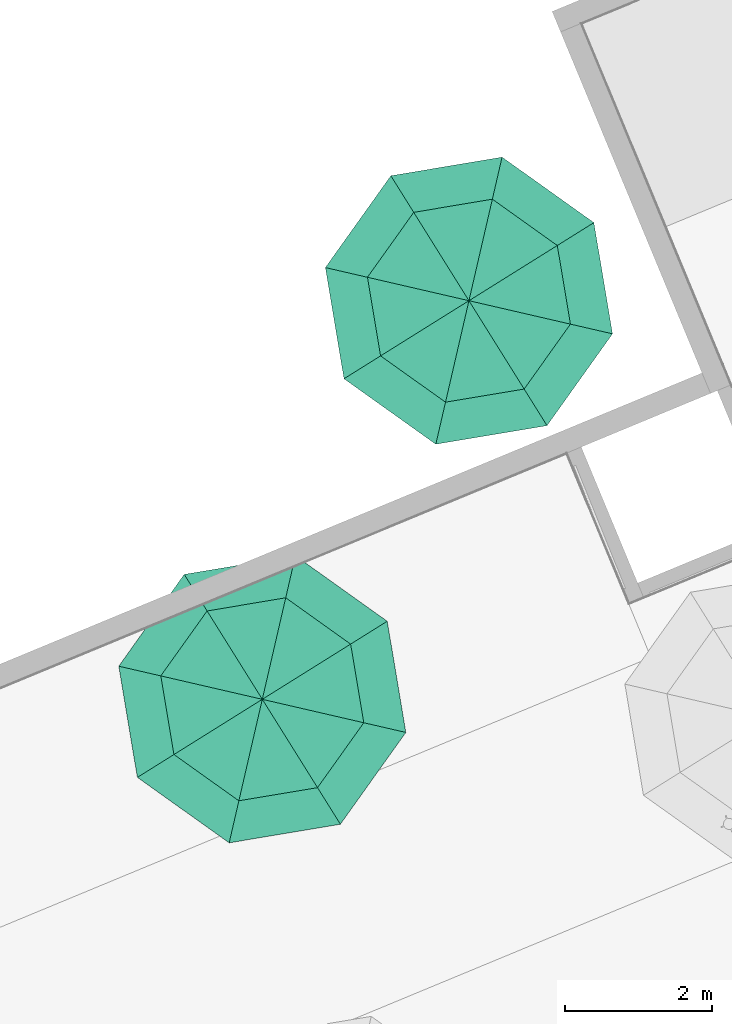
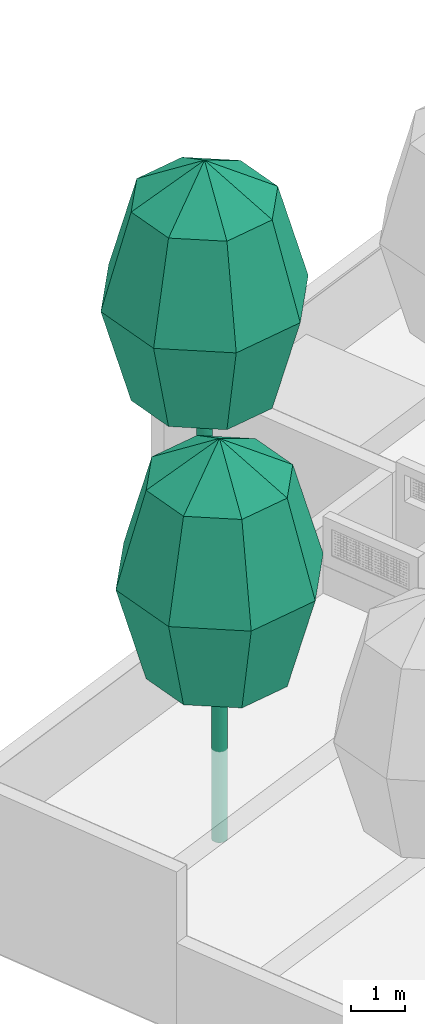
# One storey, part 95 of 119: 2 flow terminals.
"""IFC2X3 building model written with IfcOpenShell, lengths in metres."""

from ifc_helpers import new_model, entity, si_unit, converted_unit, derived_unit, money_unit, direction, frame, origin_with_axes, place, context, subcontext, project, spatial, faceted_brep, source, transform, mapped, type_object, element, save


model = new_model("IFC2X3")

# Units and contexts
model_context = context("Model", 3, precision=1e-05, world=origin_with_axes(), true_north=direction((0.0, 1.0)))
body_context = subcontext(model_context, "Body", "Model", "MODEL_VIEW")
ifc_project = project(units=[si_unit("LENGTHUNIT", "METRE"), si_unit("AREAUNIT", "SQUARE_METRE"), si_unit("VOLUMEUNIT", "CUBIC_METRE"), converted_unit("PLANEANGLEUNIT", "DEGREE", entity("IfcPlaneAngleMeasure", 0.0174532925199), si_unit("PLANEANGLEUNIT", "RADIAN"), dimensions=[0, 0, 0, 0, 0, 0, 0]), si_unit("SOLIDANGLEUNIT", "STERADIAN"), money_unit("EUR"), converted_unit("TIMEUNIT", "Year", entity("IfcTimeMeasure", 31556926.0), si_unit("TIMEUNIT", "SECOND"), dimensions=[0, 0, 1, 0, 0, 0, 0]), si_unit("MASSUNIT", "GRAM", prefix="KILO"), si_unit("THERMODYNAMICTEMPERATUREUNIT", "DEGREE_CELSIUS"), si_unit("LUMINOUSINTENSITYUNIT", "LUMEN"), si_unit("ENERGYUNIT", "JOULE", prefix="MEGA"), derived_unit("THERMALCONDUCTANCEUNIT", [(si_unit("POWERUNIT", "WATT"), 1), (si_unit("LENGTHUNIT", "METRE"), -1), (si_unit("THERMODYNAMICTEMPERATUREUNIT", "KELVIN"), -1)]), derived_unit("SPECIFICHEATCAPACITYUNIT", [(si_unit("ENERGYUNIT", "JOULE"), 1), (si_unit("MASSUNIT", "GRAM", prefix="KILO"), -1), (si_unit("THERMODYNAMICTEMPERATUREUNIT", "KELVIN"), -1)]), derived_unit("MASSDENSITYUNIT", [(si_unit("MASSUNIT", "GRAM", prefix="KILO"), 1), (si_unit("VOLUMEUNIT", "CUBIC_METRE"), -1)])], contexts=[model_context])

# Site, building, storey
site_placement = place(None, origin_with_axes())
site = spatial("IfcSite", under=ifc_project, at=site_placement, Name="Site", CompositionType="ELEMENT")
building_placement = place(site_placement, origin_with_axes())
building = spatial("IfcBuilding", under=site, at=building_placement, Name="Bâtiment", CompositionType="ELEMENT")
storey_placement = place(building_placement, origin_with_axes())
storey = spatial("IfcBuildingStorey", under=building, at=storey_placement, Name="Rez-de-chaussée", CompositionType="ELEMENT", Elevation=0.0)

# Flow terminals
air_terminal_type = type_object("IfcAirTerminalType", Name="Modèle arbre conceptuel 23", PredefinedType="NOTDEFINED")
shared_shape = source(origin_with_axes(), body_context, "Body", "Brep", [
    faceted_brep([(-0.147721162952, -0.02604722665, 0.0), (-0.15, 0.0, 0.0), (-0.147721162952, 0.02604722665, 0.0), (-0.140953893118, 0.0513030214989, 0.0), (-0.129903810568, 0.075, 0.0), (-0.114906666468, 0.096418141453, 0.0), (-0.096418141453, 0.114906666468, 0.0), (-0.075, 0.129903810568, 0.0), (-0.0513030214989, 0.140953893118, 0.0), (-0.02604722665, 0.147721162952, 0.0), (0.0, 0.15, 0.0), (0.02604722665, 0.147721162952, 0.0), (0.0513030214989, 0.140953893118, 0.0), (0.075, 0.129903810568, 0.0), (0.096418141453, 0.114906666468, 0.0), (0.114906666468, 0.096418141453, 0.0), (0.129903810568, 0.075, 0.0), (0.140953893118, 0.0513030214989, 0.0), (0.147721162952, 0.02604722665, 0.0), (0.15, 0.0, 0.0), (0.147721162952, -0.02604722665, 0.0), (0.140953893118, -0.0513030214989, 0.0), (0.129903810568, -0.075, 0.0), (0.114906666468, -0.096418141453, 0.0), (0.096418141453, -0.114906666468, 0.0), (0.075, -0.129903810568, 0.0), (0.0513030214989, -0.140953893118, 0.0), (0.02604722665, -0.147721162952, 0.0), (0.0, -0.15, 0.0), (-0.02604722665, -0.147721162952, 0.0), (-0.0513030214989, -0.140953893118, 0.0), (-0.075, -0.129903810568, 0.0), (-0.096418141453, -0.114906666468, 0.0), (-0.114906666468, -0.096418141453, 0.0), (-0.129903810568, -0.075, 0.0), (-0.140953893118, -0.0513030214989, 0.0), (-0.147721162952, -0.02604722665, 3.0), (-0.15, 0.0, 3.0), (-0.147721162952, 0.02604722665, 3.0), (-0.140953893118, 0.0513030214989, 3.0), (-0.129903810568, 0.075, 3.0), (-0.114906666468, 0.096418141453, 3.0), (-0.096418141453, 0.114906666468, 3.0), (-0.075, 0.129903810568, 3.0), (-0.0513030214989, 0.140953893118, 3.0), (-0.02604722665, 0.147721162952, 3.0), (0.0, 0.15, 3.0), (0.02604722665, 0.147721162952, 3.0), (0.0513030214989, 0.140953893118, 3.0), (0.075, 0.129903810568, 3.0), (0.096418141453, 0.114906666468, 3.0), (0.114906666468, 0.096418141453, 3.0), (0.129903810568, 0.075, 3.0), (0.140953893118, 0.0513030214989, 3.0), (0.147721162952, 0.02604722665, 3.0), (0.15, 0.0, 3.0), (0.147721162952, -0.02604722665, 3.0), (0.140953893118, -0.0513030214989, 3.0), (0.129903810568, -0.075, 3.0), (0.114906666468, -0.096418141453, 3.0), (0.096418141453, -0.114906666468, 3.0), (0.075, -0.129903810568, 3.0), (0.0513030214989, -0.140953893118, 3.0), (0.02604722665, -0.147721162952, 3.0), (0.0, -0.15, 3.0), (-0.02604722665, -0.147721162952, 3.0), (-0.0513030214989, -0.140953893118, 3.0), (-0.075, -0.129903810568, 3.0), (-0.096418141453, -0.114906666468, 3.0), (-0.114906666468, -0.096418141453, 3.0), (-0.129903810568, -0.075, 3.0), (-0.140953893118, -0.0513030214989, 3.0)], [[[0, 1, 2, 3, 4, 5, 6, 7, 8, 9, 10, 11, 12, 13, 14, 15, 16, 17, 18, 19, 20, 21, 22, 23, 24, 25, 26, 27, 28, 29, 30, 31, 32, 33, 34, 35]], [[0, 36, 37, 1]], [[1, 37, 38, 2]], [[2, 38, 39, 3]], [[3, 39, 40, 4]], [[4, 40, 41, 5]], [[5, 41, 42, 6]], [[6, 42, 43, 7]], [[7, 43, 44, 8]], [[8, 44, 45, 9]], [[9, 45, 46, 10]], [[10, 46, 47, 11]], [[11, 47, 48, 12]], [[12, 48, 49, 13]], [[13, 49, 50, 14]], [[14, 50, 51, 15]], [[15, 51, 52, 16]], [[16, 52, 53, 17]], [[17, 53, 54, 18]], [[18, 54, 55, 19]], [[19, 55, 56, 20]], [[20, 56, 57, 21]], [[21, 57, 58, 22]], [[22, 58, 59, 23]], [[23, 59, 60, 24]], [[24, 60, 61, 25]], [[25, 61, 62, 26]], [[26, 62, 63, 27]], [[27, 63, 64, 28]], [[28, 64, 65, 29]], [[29, 65, 66, 30]], [[30, 66, 67, 31]], [[31, 67, 68, 32]], [[32, 68, 69, 33]], [[33, 69, 70, 34]], [[34, 70, 71, 35]], [[35, 71, 36, 0]], [[36, 71, 70, 69, 68, 67, 66, 65, 64, 63, 62, 61, 60, 59, 58, 57, 56, 55, 54, 53, 52, 51, 50, 49, 48, 47, 46, 45, 44, 43, 42, 41, 40, 39, 38, 37]]]),
    faceted_brep([(-0.147721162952, -0.02604722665, 3.0), (-0.15, 0.0, 3.0), (-0.147721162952, 0.02604722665, 3.0), (-0.140953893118, 0.0513030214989, 3.0), (-0.129903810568, 0.075, 3.0), (-0.114906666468, 0.096418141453, 3.0), (-0.096418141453, 0.114906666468, 3.0), (-0.075, 0.129903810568, 3.0), (-0.0513030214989, 0.140953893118, 3.0), (-0.02604722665, 0.147721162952, 3.0), (0.0, 0.15, 3.0), (0.02604722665, 0.147721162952, 3.0), (0.0513030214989, 0.140953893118, 3.0), (0.075, 0.129903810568, 3.0), (0.096418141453, 0.114906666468, 3.0), (0.114906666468, 0.096418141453, 3.0), (0.129903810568, 0.075, 3.0), (0.140953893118, 0.0513030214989, 3.0), (0.147721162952, 0.02604722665, 3.0), (0.15, 0.0, 3.0), (0.147721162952, -0.02604722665, 3.0), (0.140953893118, -0.0513030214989, 3.0), (0.129903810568, -0.075, 3.0), (0.114906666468, -0.096418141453, 3.0), (0.096418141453, -0.114906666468, 3.0), (0.075, -0.129903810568, 3.0), (0.0513030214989, -0.140953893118, 3.0), (0.02604722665, -0.147721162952, 3.0), (0.0, -0.15, 3.0), (-0.02604722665, -0.147721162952, 3.0), (-0.0513030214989, -0.140953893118, 3.0), (-0.075, -0.129903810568, 3.0), (-0.096418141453, -0.114906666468, 3.0), (-0.114906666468, -0.096418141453, 3.0), (-0.129903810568, -0.075, 3.0), (-0.140953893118, -0.0513030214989, 3.0), (0.0, 0.0, 6.0)], [[[0, 1, 2, 3, 4, 5, 6, 7, 8, 9, 10, 11, 12, 13, 14, 15, 16, 17, 18, 19, 20, 21, 22, 23, 24, 25, 26, 27, 28, 29, 30, 31, 32, 33, 34, 35]], [[0, 36, 1]], [[1, 36, 2]], [[2, 36, 3]], [[3, 36, 4]], [[4, 36, 5]], [[5, 36, 6]], [[6, 36, 7]], [[7, 36, 8]], [[8, 36, 9]], [[9, 36, 10]], [[10, 36, 11]], [[11, 36, 12]], [[12, 36, 13]], [[13, 36, 14]], [[14, 36, 15]], [[15, 36, 16]], [[16, 36, 17]], [[17, 36, 18]], [[18, 36, 19]], [[19, 36, 20]], [[20, 36, 21]], [[21, 36, 22]], [[22, 36, 23]], [[23, 36, 24]], [[24, 36, 25]], [[25, 36, 26]], [[26, 36, 27]], [[27, 36, 28]], [[28, 36, 29]], [[29, 36, 30]], [[30, 36, 31]], [[31, 36, 32]], [[32, 36, 33]], [[33, 36, 34]], [[34, 36, 35]], [[35, 36, 0]]]),
    faceted_brep([(-1.41421356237, 0.0, 8.12132034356), (-1.0, -1.0, 8.12132034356), (0.0, 0.0, 9.0), (-2.0, 0.0, 6.0), (-1.41421356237, -1.41421356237, 6.0), (0.0, -1.41421356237, 8.12132034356), (-1.0, 1.0, 8.12132034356), (-1.41421356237, 0.0, 3.87867965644), (-1.0, -1.0, 3.87867965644), (0.0, -2.0, 6.0), (-1.41421356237, 1.41421356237, 6.0), (1.0, -1.0, 8.12132034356), (0.0, 1.41421356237, 8.12132034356), (0.0, 0.0, 3.0), (0.0, -1.41421356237, 3.87867965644), (-1.0, 1.0, 3.87867965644), (1.41421356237, -1.41421356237, 6.0), (0.0, 2.0, 6.0), (1.41421356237, 0.0, 8.12132034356), (1.0, 1.0, 8.12132034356), (1.0, -1.0, 3.87867965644), (0.0, 1.41421356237, 3.87867965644), (2.0, 0.0, 6.0), (1.41421356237, 1.41421356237, 6.0), (1.41421356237, 0.0, 3.87867965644), (1.0, 1.0, 3.87867965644)], [[[0, 1, 2]], [[3, 4, 1, 0]], [[1, 5, 2]], [[6, 0, 2]], [[7, 8, 4, 3]], [[4, 9, 5, 1]], [[10, 3, 0, 6]], [[5, 11, 2]], [[12, 6, 2]], [[13, 8, 7]], [[8, 14, 9, 4]], [[15, 7, 3, 10]], [[9, 16, 11, 5]], [[17, 10, 6, 12]], [[11, 18, 2]], [[19, 12, 2]], [[13, 14, 8]], [[13, 7, 15]], [[14, 20, 16, 9]], [[21, 15, 10, 17]], [[16, 22, 18, 11]], [[23, 17, 12, 19]], [[18, 19, 2]], [[13, 20, 14]], [[13, 15, 21]], [[20, 24, 22, 16]], [[25, 21, 17, 23]], [[22, 23, 19, 18]], [[13, 24, 20]], [[13, 21, 25]], [[24, 25, 23, 22]], [[13, 25, 24]]]),
])
flow_terminal_1_placement = place(storey_placement, frame((-32.432231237, 0.930985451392, 2.0), z_axis=(0.0, 0.0, 1.0), x_axis=(-0.224876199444, -0.974387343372, 0.0)))
element("IfcFlowTerminal", 1, at=flow_terminal_1_placement, inside=storey, type_object=air_terminal_type, Name="Carpinus caroliniana", ObjectType="AIR TERMINAL", context=body_context, shape_type="MappedRepresentation", body=[
    mapped(shared_shape, transform((0.0, 0.0, 0.0))),
])
flow_terminal_2_placement = place(storey_placement, frame((-35.2375459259, -4.48045231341, 0.0), z_axis=(0.0, 0.0, 1.0), x_axis=(-0.224876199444, -0.974387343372, 0.0)))
element("IfcFlowTerminal", 2, at=flow_terminal_2_placement, inside=storey, type_object=air_terminal_type, Name="Acer Japonicum", ObjectType="AIR TERMINAL", context=body_context, shape_type="MappedRepresentation", body=[
    mapped(shared_shape, transform((0.0, 0.0, 0.0))),
])

save(model, "model.ifc")
